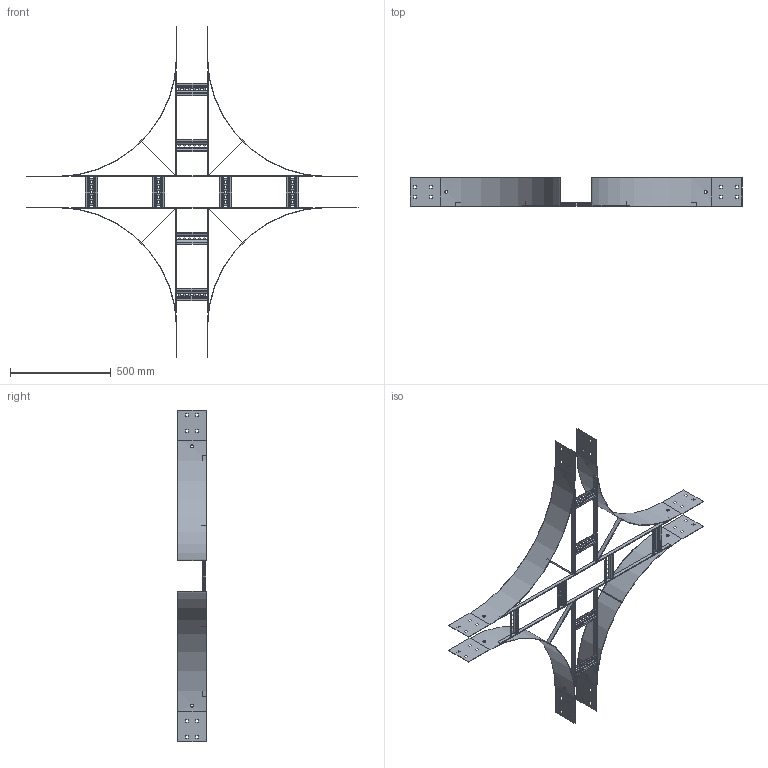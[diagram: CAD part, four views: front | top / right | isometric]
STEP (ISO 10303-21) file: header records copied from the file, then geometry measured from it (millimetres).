
FILE_DESCRIPTION (( 'STEP AP203' ), '1' );
FILE_NAME ('N20C C 1506.STEP', '2024-08-29T00:02:21', ( '' ), ( '' ), 'SwSTEP 2.0', 'SolidWorks 2023', '' );
FILE_SCHEMA (( 'CONFIG_CONTROL_DESIGN' ));
Length unit declared in the file: millimetre
Products named in the file (6): Ladder Tee 20x5 Flat Bar_240; N20C RADIUS PLATE_N1-600 IR; Ladder Tee 20x5 Flat Bar_518; Ladder Tee 20x5 Flat Bar_1195; Ladder Rung_Ladder Rung -  150mm; N20C C 1506
Assembly tree (22 placements, depth 2):
  N20C C 1506
    Ladder Rung_Ladder Rung -  150mm  x8
    Ladder Tee 20x5 Flat Bar_1195  x2
    N20C RADIUS PLATE_N1-600 IR  x4
    Ladder Tee 20x5 Flat Bar_518  x4
    Ladder Tee 20x5 Flat Bar_240  x4
Bounding box: 1650 x 140 x 1650 mm (x, y, z)
Volume: 2048424.3 mm3; surface area: 1847084.5 mm2
Topology: 22 solids, 22 shells, 788 faces, 1944 edges, 1200 vertices
Faces by surface type: plane 700, cylinder 88
Entity records: 5420 total; most frequent: CARTESIAN_POINT 1043, ORIENTED_EDGE 664, DIRECTION 662, EDGE_CURVE 332, LINE 304, VECTOR 304, VERTEX_POINT 208, AXIS2_PLACEMENT_3D 179
